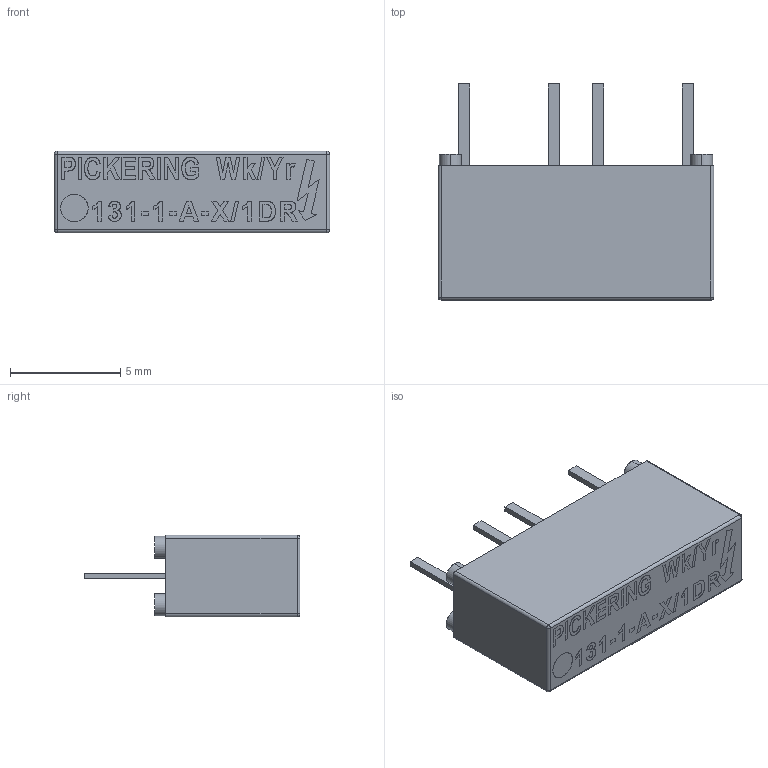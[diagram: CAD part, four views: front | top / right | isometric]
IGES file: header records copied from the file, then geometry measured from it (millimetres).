
Start section: SolidWorks IGES file using analytic representation for surfaces
Global section: file name: T:\ISO2\QMS\DESIGN & DEVELOPMENT\UK PRODUCT\Open Projects\DD031 131 Series\Models for website\131-1-A-X-1DR.IGS; native system: SolidWorks 2019; preprocessor: SolidWorks 2019; author: robert.king; date: 200213.161325; units: millimetre
Bounding box: 12.5 x 9.8 x 3.7 mm (x, y, z)
Surface area: 315.6 mm2 (no closed solid volume)
Topology: 0 solids, 0 shells, 359 faces, 2769 edges, 2765 vertices
Faces by surface type: bspline 337, revolution 22
